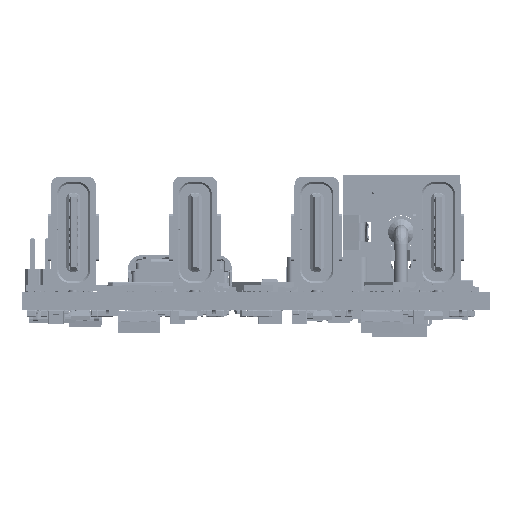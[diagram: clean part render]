
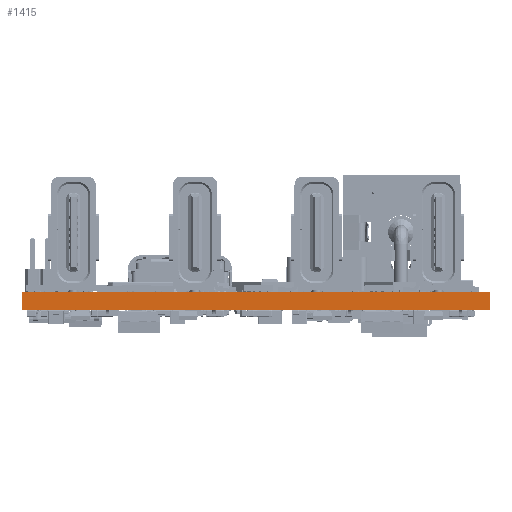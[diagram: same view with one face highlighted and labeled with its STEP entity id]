
A CAD part, front view. The second image highlights one B-rep face of the part: STEP entity #1415.
In plain terms, the highlighted planar face has unit normal (0, -1, 0).
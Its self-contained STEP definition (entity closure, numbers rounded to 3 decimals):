
#1317 = EDGE_CURVE('',#1318,#1320,#1322,.T.);
#1318 = VERTEX_POINT('',#1319);
#1319 = CARTESIAN_POINT('',(-20.,0.,0.));
#1320 = VERTEX_POINT('',#1321);
#1321 = CARTESIAN_POINT('',(-20.,0.,1.569));
#1322 = LINE('',#1323,#1324);
#1323 = CARTESIAN_POINT('',(-20.,0.,0.));
#1324 = VECTOR('',#1325,1.);
#1325 = DIRECTION('',(0.,0.,1.));
#1390 = VERTEX_POINT('',#1391);
#1391 = CARTESIAN_POINT('',(20.,0.,1.569));
#1397 = EDGE_CURVE('',#1398,#1390,#1400,.T.);
#1398 = VERTEX_POINT('',#1399);
#1399 = CARTESIAN_POINT('',(20.,0.,0.));
#1400 = LINE('',#1401,#1402);
#1401 = CARTESIAN_POINT('',(20.,0.,0.));
#1402 = VECTOR('',#1403,1.);
#1403 = DIRECTION('',(0.,0.,1.));
#1415 = ADVANCED_FACE('',(#1416),#1432,.T.);
#1416 = FACE_BOUND('',#1417,.T.);
#1417 = EDGE_LOOP('',(#1418,#1419,#1425,#1426));
#1418 = ORIENTED_EDGE('',*,*,#1397,.T.);
#1419 = ORIENTED_EDGE('',*,*,#1420,.T.);
#1420 = EDGE_CURVE('',#1390,#1320,#1421,.T.);
#1421 = LINE('',#1422,#1423);
#1422 = CARTESIAN_POINT('',(20.,0.,1.569));
#1423 = VECTOR('',#1424,1.);
#1424 = DIRECTION('',(-1.,0.,0.));
#1425 = ORIENTED_EDGE('',*,*,#1317,.F.);
#1426 = ORIENTED_EDGE('',*,*,#1427,.F.);
#1427 = EDGE_CURVE('',#1398,#1318,#1428,.T.);
#1428 = LINE('',#1429,#1430);
#1429 = CARTESIAN_POINT('',(20.,0.,0.));
#1430 = VECTOR('',#1431,1.);
#1431 = DIRECTION('',(-1.,0.,0.));
#1432 = PLANE('',#1433);
#1433 = AXIS2_PLACEMENT_3D('',#1434,#1435,#1436);
#1434 = CARTESIAN_POINT('',(20.,0.,0.));
#1435 = DIRECTION('',(0.,-1.,0.));
#1436 = DIRECTION('',(-1.,0.,0.));
